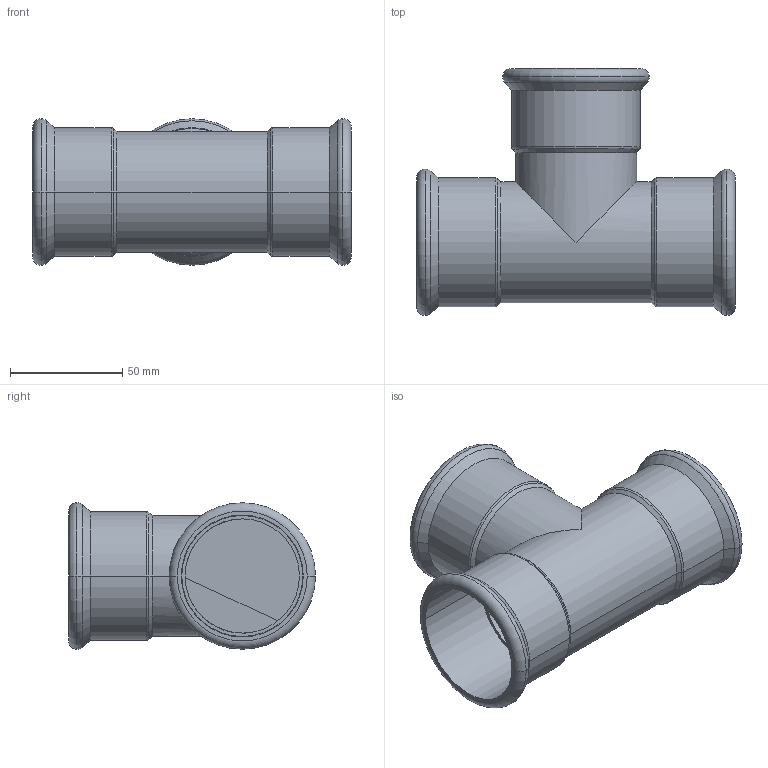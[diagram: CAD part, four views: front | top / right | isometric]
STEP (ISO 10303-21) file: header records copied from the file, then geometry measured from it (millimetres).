
FILE_DESCRIPTION(('CoCreate Modeling STEP Export'),'2;1');
FILE_NAME('C1414 54x54x54.stp','2014-11-11T16:58:01',(''),(''),'CoCreate Modeling STEP processor for AP214 (Solid Model)','CoCreate Modeling 17.00A 17-Jun-2010 (C) Parametric Technology GmbH','');
FILE_SCHEMA(('AUTOMOTIVE_DESIGN { 1 0 10303 214 1 1 1 1 }'));
Length unit declared in the file: millimetre
Products named in the file (1): C1414_54x54x54
Bounding box: 142 x 110.15 x 65.3 mm (x, y, z)
Volume: 63863.8 mm3; surface area: 70997.8 mm2
Topology: 2 solids, 3 shells, 69 faces, 144 edges, 84 vertices
Faces by surface type: cylinder 27, torus 18, cone 14, plane 10
Full cylindrical faces by diameter (mm): 54 x1
Entity records: 1487 total; most frequent: ORIENTED_EDGE 294, DIRECTION 229, CARTESIAN_POINT 218, EDGE_CURVE 144, AXIS2_PLACEMENT_3D 95, VERTEX_POINT 84, EDGE_LOOP 78, FACE_OUTER_BOUND 69
